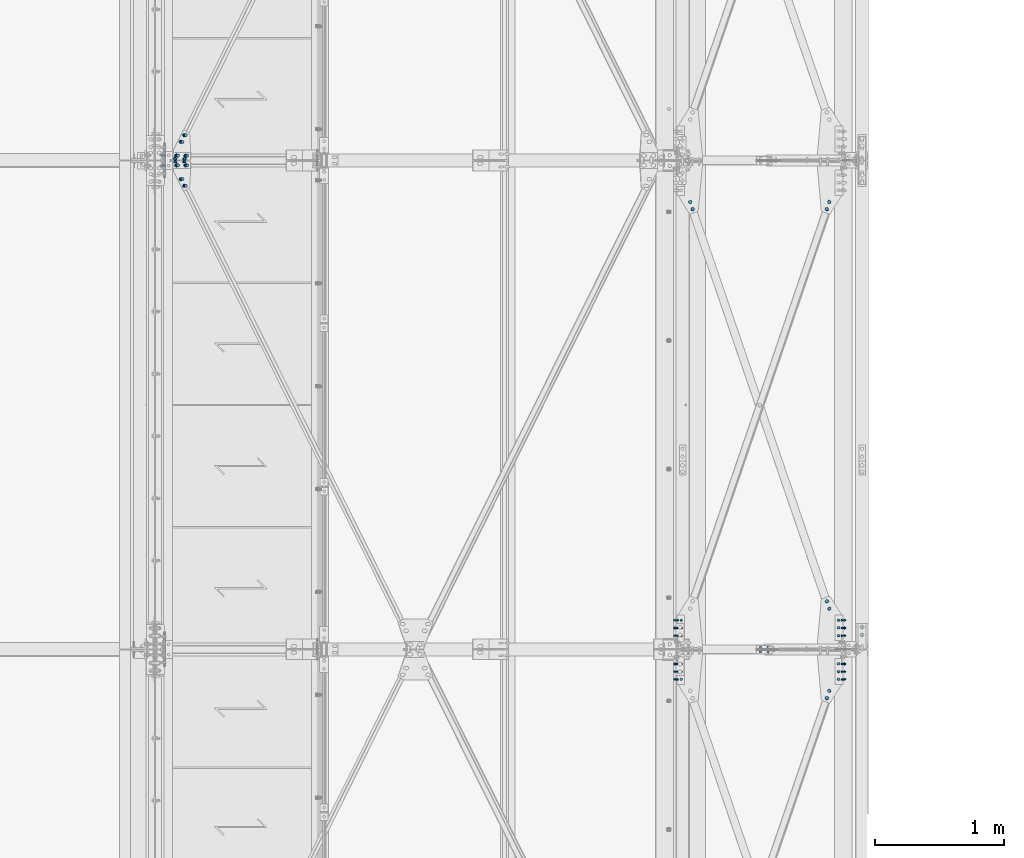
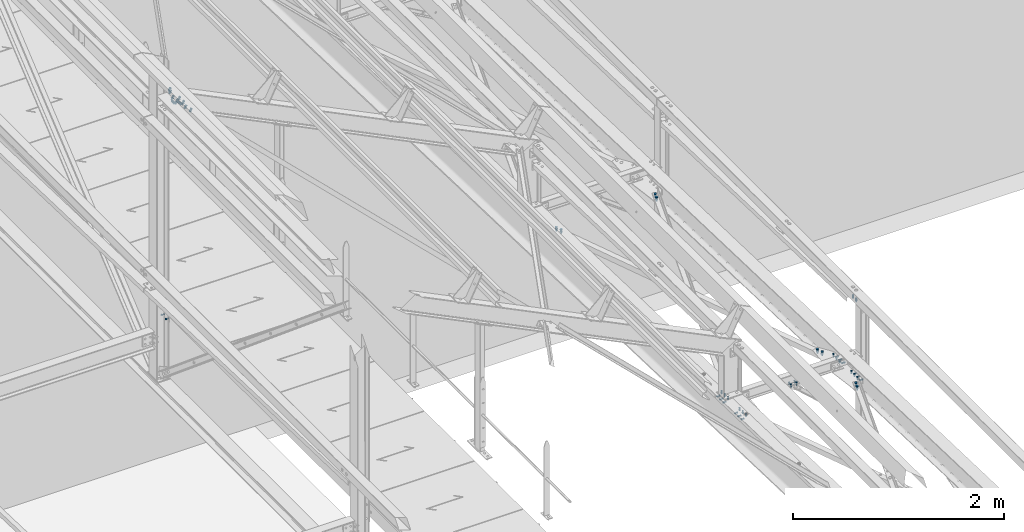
# One storey, part 190 of 362: 20 mechanical fasteners.
"""IFC2X3 building model written with IfcOpenShell, lengths in millimetres."""

from ifc_helpers import new_model, si_unit, frame, frame_2d, origin_with_axes, origin_2d_with_axis, place, context, subcontext, project, spatial, polyline, circle_curve, parameter, trimmed, segment, composite_curve, circle, outline, extrude, source, transform, mapped, material, type_object, element, save


model = new_model("IFC2X3")

# Units and contexts
model_context = context("Model", 3, precision=1e-05, world=origin_with_axes())
body_context = subcontext(model_context, "Body", "Model", "MODEL_VIEW")
ifc_project = project(units=[si_unit("LENGTHUNIT", "METRE", prefix="MILLI"), si_unit("AREAUNIT", "SQUARE_METRE"), si_unit("VOLUMEUNIT", "CUBIC_METRE"), si_unit("MASSUNIT", "GRAM", prefix="KILO"), si_unit("TIMEUNIT", "SECOND"), si_unit("PLANEANGLEUNIT", "RADIAN"), si_unit("SOLIDANGLEUNIT", "STERADIAN"), si_unit("THERMODYNAMICTEMPERATUREUNIT", "DEGREE_CELSIUS"), si_unit("LUMINOUSINTENSITYUNIT", "LUMEN")], contexts=[model_context])

# Site, building, storey
site_placement = place(None, origin_with_axes())
site = spatial("IfcSite", under=ifc_project, at=site_placement, Name="Undefined", CompositionType="ELEMENT")
building_placement = place(site_placement, origin_with_axes())
building = spatial("IfcBuilding", under=site, at=building_placement, Name="Undefined", CompositionType="ELEMENT")
storey_placement = place(building_placement, origin_with_axes())
storey = spatial("IfcBuildingStorey", under=building, at=storey_placement, Name="Undefined", CompositionType="ELEMENT", Elevation=0.0)

# Mechanical fasteners
ifc_material_1 = material(Name="#_SB-8.8-ZINGUE")
mechanical_fastener_type = type_object("IfcMechanicalFastenerType", Name="Bolt assembly")
shared_shape_1 = source(origin_with_axes(), body_context, "Body", "SweptSolid", [
    extrude(circle(Radius=9.0, at=origin_2d_with_axis()), frame((0.0, 0.1, 0.0), z_axis=(0.0, 1.0, 0.0), x_axis=(1.0, 0.0, 0.0)), (0.0, 0.0, 1.0), 6.0),
    extrude(circle(Radius=9.0, at=origin_2d_with_axis()), frame((0.0, 5.90002706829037, 0.0), z_axis=(0.0, 1.0, 0.0), x_axis=(1.0, 0.0, 0.0)), (0.0, 0.0, 1.0), 6.1),
    extrude(outline(polyline([(13.85640646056, 0.0), (6.92820323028, 12.0000000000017), (-6.92820323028, 12.0000000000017), (-13.85640646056, 0.0), (-6.92820323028, -12.0000000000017), (6.92820323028, -12.0000000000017), (13.85640646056, 0.0)])), frame((0.0, -10.5600019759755, 0.0), z_axis=(0.0, 1.0, 0.0), x_axis=(1.0, 0.0, 0.0)), (0.0, 0.0, 1.0), 10.56),
    extrude(circle(Radius=8.0, at=origin_2d_with_axis()), frame((0.0, 0.0, 0.0), z_axis=(0.0, 1.0, 0.0), x_axis=(1.0, 0.0, 0.0)), (0.0, 0.0, 1.0), 40.0),
    extrude(outline(polyline([(15.3344231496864, 0.0), (7.6672115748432, 13.2800000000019), (-7.6672115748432, 13.2800000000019), (-15.3344231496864, 0.0), (-7.6672115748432, -13.2800000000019), (7.6672115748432, -13.2800000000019), (15.3344231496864, 0.0)])), frame((0.0, 12.0000270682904, 0.0), z_axis=(0.0, 1.0, 0.0), x_axis=(1.0, 0.0, 0.0)), (0.0, 0.0, 1.0), 10.56),
])
mechanical_fastener_1_placement = place(storey_placement, frame((34490.8930125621, 7562.0004298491, 10375.2944476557), z_axis=(-0.897398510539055, -1.29999898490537e-08, 0.441220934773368), x_axis=(0.0, 1.0, 0.0)))
element("IfcMechanicalFastener", 1, at=mechanical_fastener_1_placement, inside=storey, type_object=mechanical_fastener_type, material=ifc_material_1, Name="Bolt assembly", NominalDiameter=16.0, NominalLength=40.0, context=body_context, shape_type="MappedRepresentation", body=[
    mapped(shared_shape_1, transform((0.0, 0.0, 40.0))),
    mapped(shared_shape_1, transform((0.0, 0.0, -40.0))),
])
mechanical_fastener_2_placement = place(storey_placement, frame((34490.8930114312, 7638.00022462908, 10375.2944476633), z_axis=(0.897398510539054, 0.0, -0.44122093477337), x_axis=(0.0, -1.0, 0.0)))
element("IfcMechanicalFastener", 2, at=mechanical_fastener_2_placement, inside=storey, type_object=mechanical_fastener_type, material=ifc_material_1, Name="Bolt assembly", NominalDiameter=16.0, NominalLength=40.0, context=body_context, shape_type="MappedRepresentation", body=[
    mapped(shared_shape_1, transform((0.0, 0.0, -40.0))),
    mapped(shared_shape_1, transform((0.0, 0.0, 40.0))),
])
ifc_material_2 = material(Name="8.8-SB-ZINGUE")
shared_shape_2 = source(origin_with_axes(), body_context, "Body", "SweptSolid", [
    extrude(circle(Radius=7.0, at=origin_2d_with_axis()), frame((0.0, -0.100011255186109, 0.0), z_axis=(0.0, 1.0, 0.0), x_axis=(1.0, 0.0, 0.0)), (0.0, 0.0, 1.0), 6.1),
    extrude(circle(Radius=7.0, at=origin_2d_with_axis()), frame((0.0, -5.9000361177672, 0.0), z_axis=(0.0, 1.0, 0.0), x_axis=(1.0, 0.0, 0.0)), (0.0, 0.0, 1.0), 6.0),
    extrude(outline(polyline([(10.39230484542, 0.0), (5.19615242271, 9.00000000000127), (-5.19615242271, 9.00000000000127), (-10.39230484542, 0.0), (-5.19615242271, -9.00000000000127), (5.19615242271, -9.00000000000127), (10.39230484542, 0.0)])), frame((0.0, -13.9200361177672, 0.0), z_axis=(0.0, 1.0, 0.0), x_axis=(1.0, 0.0, 0.0)), (0.0, 0.0, 1.0), 7.92),
    extrude(circle(Radius=6.0, at=origin_2d_with_axis()), frame((0.0, -6.00003611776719, 0.0), z_axis=(0.0, 1.0, 0.0), x_axis=(1.0, 0.0, 0.0)), (0.0, 0.0, 1.0), 30.0),
    extrude(outline(polyline([(11.5008173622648, 0.0), (5.7504086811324, 9.96000000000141), (-5.7504086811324, 9.96000000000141), (-11.5008173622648, 0.0), (-5.7504086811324, -9.96000000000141), (5.7504086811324, -9.96000000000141), (11.5008173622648, 0.0)])), frame((0.0, 6.0, 0.0), z_axis=(0.0, 1.0, 0.0), x_axis=(1.0, 0.0, 0.0)), (0.0, 0.0, 1.0), 7.92),
])
for number, where, z_axis, x_axis, name in (
    (3, (38370.0, 3628.01076316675, 7809.92294628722), (0.0, -0.999506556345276, 0.031410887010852), (-1.0, 0.0, 0.0), "Bolt assembly"),
    (4, (38370.0, 3967.84299484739, 7799.24332495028), (0.0, -0.999506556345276, 0.031410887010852), (-1.0, 0.0, 0.0), "Bolt assembly"),
):
    element("IfcMechanicalFastener", number, at=place(storey_placement, frame(where, z_axis=z_axis, x_axis=x_axis)), inside=storey, type_object=mechanical_fastener_type, material=ifc_material_2, Name=name, NominalDiameter=12.0, NominalLength=30.0, context=body_context, shape_type="MappedRepresentation", body=[
        mapped(shared_shape_2, transform((0.0, 0.0, -60.0))),
        mapped(shared_shape_2, transform((0.0, 0.0, 0.0))),
        mapped(shared_shape_2, transform((0.0, 0.0, 60.0))),
    ])
shared_shape_3 = source(origin_with_axes(), body_context, "Body", "SweptSolid", [
    extrude(circle(Radius=7.0, at=origin_2d_with_axis()), frame((0.0, -0.0999426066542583, 0.0), z_axis=(0.0, 1.0, 0.0), x_axis=(1.0, 0.0, 0.0)), (0.0, 0.0, 1.0), 8.6),
    extrude(circle(Radius=7.0, at=origin_2d_with_axis()), frame((0.0, -6.9, 0.0), z_axis=(0.0, 1.0, 0.0), x_axis=(1.0, 0.0, 0.0)), (0.0, 0.0, 1.0), 7.0),
    extrude(outline(polyline([(10.39230484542, 0.0), (5.19615242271, 9.00000000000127), (-5.19615242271, 9.00000000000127), (-10.39230484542, 0.0), (-5.19615242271, -9.00000000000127), (5.19615242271, -9.00000000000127), (10.39230484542, 0.0)])), frame((0.0, -14.92, 0.0), z_axis=(0.0, 1.0, 0.0), x_axis=(1.0, 0.0, 0.0)), (0.0, 0.0, 1.0), 7.92),
    extrude(circle(Radius=6.0, at=origin_2d_with_axis()), frame((0.0, -7.0, 0.0), z_axis=(0.0, 1.0, 0.0), x_axis=(1.0, 0.0, 0.0)), (0.0, 0.0, 1.0), 30.0),
    extrude(outline(polyline([(11.5008173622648, 0.0), (5.7504086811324, 9.96000000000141), (-5.7504086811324, 9.96000000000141), (-11.5008173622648, 0.0), (-5.7504086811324, -9.96000000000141), (5.7504086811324, -9.96000000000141), (11.5008173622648, 0.0)])), frame((0.0, 8.50005763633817, 0.0), z_axis=(0.0, 1.0, 0.0), x_axis=(1.0, 0.0, 0.0)), (0.0, 0.0, 1.0), 7.92),
])
mechanical_fastener_3_placement = place(storey_placement, frame((34346.5000576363, 7599.99999998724, 7910.00000000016), z_axis=(0.0, -1.0, 0.0), x_axis=(0.0, 0.0, 1.0)))
element("IfcMechanicalFastener", 5, at=mechanical_fastener_3_placement, inside=storey, type_object=mechanical_fastener_type, material=ifc_material_2, Name="Bolt assembly", NominalDiameter=12.0, NominalLength=30.0, context=body_context, shape_type="MappedRepresentation", body=[
    mapped(shared_shape_3, transform((0.0, 0.0, -40.0))),
    mapped(shared_shape_3, transform((0.0, 0.0, 40.0))),
])
shared_shape_4 = source(origin_with_axes(), body_context, "Body", "SweptSolid", [
    extrude(circle(Radius=7.0, at=origin_2d_with_axis()), frame((0.0, -3.89999843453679, 0.0), z_axis=(0.0, 1.0, 0.0), x_axis=(1.0, 0.0, 0.0)), (0.0, 0.0, 1.0), 4.0),
    extrude(outline(composite_curve([segment(polyline([(-7.0, 7.0), (7.0, 7.0)]), True, "CONTINUOUS"), segment(trimmed(circle_curve(frame_2d((7.0, 0.0), x_axis=(0.0, 1.0)), 7.0), [parameter(0.0)], [parameter(3.14159265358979)], False, "PARAMETER"), True, "CONTINUOUS"), segment(polyline([(7.0, -7.0), (-7.0, -7.0)]), True, "CONTINUOUS"), segment(trimmed(circle_curve(frame_2d((-7.0, 0.0), x_axis=(0.0, -1.0)), 7.0), [parameter(0.0)], [parameter(3.14159265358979)], False, "PARAMETER"), True, "DISCONTINUOUS")], self_intersect=False)), frame((0.0, -0.100011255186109, 0.0), z_axis=(0.0, 1.0, 0.0), x_axis=(1.0, 0.0, 0.0)), (0.0, 0.0, 1.0), 10.1),
    extrude(outline(polyline([(10.39230484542, 0.0), (5.19615242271, 9.00000000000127), (-5.19615242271, 9.00000000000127), (-10.39230484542, 0.0), (-5.19615242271, -9.00000000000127), (5.19615242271, -9.00000000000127), (10.39230484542, 0.0)])), frame((0.0, -11.9199984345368, 0.0), z_axis=(0.0, 1.0, 0.0), x_axis=(1.0, 0.0, 0.0)), (0.0, 0.0, 1.0), 7.92),
    extrude(circle(Radius=6.0, at=origin_2d_with_axis()), frame((0.0, -3.99999923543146, 0.0), z_axis=(0.0, 1.0, 0.0), x_axis=(1.0, 0.0, 0.0)), (0.0, 0.0, 1.0), 40.0),
    extrude(circle(Radius=10.8, at=origin_2d_with_axis()), frame((0.0, 10.0000000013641, 0.0), z_axis=(0.0, 1.0, 0.0), x_axis=(1.0, 0.0, 0.0)), (0.0, 0.0, 1.0), 3.96),
    extrude(outline(polyline([(11.5008173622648, 0.0), (5.7504086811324, 9.96000000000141), (-5.7504086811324, 9.96000000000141), (-11.5008173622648, 0.0), (-5.7504086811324, -9.96000000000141), (5.7504086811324, -9.96000000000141), (11.5008173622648, 0.0)])), frame((0.0, 13.96, 0.0), z_axis=(0.0, 1.0, 0.0), x_axis=(1.0, 0.0, 0.0)), (0.0, 0.0, 1.0), 7.92),
])
mechanical_fastener_4_placement = place(storey_placement, frame((39775.0, 3973.5, 8450.0), z_axis=(1.0, 0.0, 0.0), x_axis=(0.0, -1.0, 0.0)))
element("IfcMechanicalFastener", 6, at=mechanical_fastener_4_placement, inside=storey, type_object=mechanical_fastener_type, material=ifc_material_2, Name="Bolt assembly", NominalDiameter=12.0, NominalLength=40.0, context=body_context, shape_type="MappedRepresentation", body=[
    mapped(shared_shape_4, transform((0.0, 0.0, 0.0))),
    mapped(shared_shape_4, transform((60.0, 0.0, 0.0))),
])
shared_shape_5 = source(origin_with_axes(), body_context, "Body", "SweptSolid", [
    extrude(circle(Radius=9.0, at=origin_2d_with_axis()), frame((0.0, -2.80035671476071, 0.0), z_axis=(0.0, 1.0, 0.0), x_axis=(1.0, 0.0, 0.0)), (0.0, 0.0, 1.0), 5.6),
    extrude(circle(Radius=9.0, at=origin_2d_with_axis()), frame((0.0, 2.89989517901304, 0.0), z_axis=(0.0, 1.0, 0.0), x_axis=(1.0, 0.0, 0.0)), (0.0, 0.0, 1.0), 6.1),
    extrude(circle(Radius=9.0, at=origin_2d_with_axis()), frame((0.0, -8.89990143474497, 0.0), z_axis=(0.0, 1.0, 0.0), x_axis=(1.0, 0.0, 0.0)), (0.0, 0.0, 1.0), 6.0),
    extrude(outline(polyline([(13.85640646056, 0.0), (6.92820323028, 12.0000000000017), (-6.92820323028, 12.0000000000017), (-13.85640646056, 0.0), (-6.92820323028, -12.0000000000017), (6.92820323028, -12.0000000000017), (13.85640646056, 0.0)])), frame((0.0, -19.559901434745, 0.0), z_axis=(0.0, 1.0, 0.0), x_axis=(1.0, 0.0, 0.0)), (0.0, 0.0, 1.0), 10.56),
    extrude(circle(Radius=8.0, at=origin_2d_with_axis()), frame((0.0, -8.99990143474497, 0.0), z_axis=(0.0, 1.0, 0.0), x_axis=(1.0, 0.0, 0.0)), (0.0, 0.0, 1.0), 40.0),
    extrude(outline(polyline([(15.3344231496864, 0.0), (7.6672115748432, 13.2800000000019), (-7.6672115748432, 13.2800000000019), (-15.3344231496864, 0.0), (-7.6672115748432, -13.2800000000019), (7.6672115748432, -13.2800000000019), (15.3344231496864, 0.0)])), frame((0.0, 8.9999337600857, 0.0), z_axis=(0.0, 1.0, 0.0), x_axis=(1.0, 0.0, 0.0)), (0.0, 0.0, 1.0), 10.56),
])
mechanical_fastener_5_placement = place(storey_placement, frame((34472.8028723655, 7600.00033007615, 10338.5011114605), z_axis=(-0.897398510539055, -1.29999898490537e-08, 0.441220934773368), x_axis=(0.44122107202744, 0.0, 0.89739844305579)))
element("IfcMechanicalFastener", 7, at=mechanical_fastener_5_placement, inside=storey, type_object=mechanical_fastener_type, material=ifc_material_1, Name="Bolt assembly", NominalDiameter=16.0, NominalLength=40.0, context=body_context, shape_type="MappedRepresentation", body=[
    mapped(shared_shape_5, transform((0.0, 0.0, 40.0))),
    mapped(shared_shape_5, transform((0.0, 0.0, -40.0))),
])
shared_shape_6 = source(origin_with_axes(), body_context, "Body", "SweptSolid", [
    extrude(circle(Radius=9.0, at=origin_2d_with_axis()), frame((0.0, -4.90000000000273, 0.0), z_axis=(0.0, 1.0, 0.0), x_axis=(1.0, 0.0, 0.0)), (0.0, 0.0, 1.0), 5.0),
    extrude(circle(Radius=9.0, at=origin_2d_with_axis()), frame((0.0, -0.100011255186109, 0.0), z_axis=(0.0, 1.0, 0.0), x_axis=(1.0, 0.0, 0.0)), (0.0, 0.0, 1.0), 6.1),
    extrude(outline(polyline([(13.85640646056, 0.0), (6.92820323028, 12.0000000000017), (-6.92820323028, 12.0000000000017), (-13.85640646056, 0.0), (-6.92820323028, -12.0000000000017), (6.92820323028, -12.0000000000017), (13.85640646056, 0.0)])), frame((0.0, -15.5600404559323, 0.0), z_axis=(0.0, 1.0, 0.0), x_axis=(1.0, 0.0, 0.0)), (0.0, 0.0, 1.0), 10.56),
    extrude(circle(Radius=8.0, at=origin_2d_with_axis()), frame((0.0, -5.00000000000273, 0.0), z_axis=(0.0, 1.0, 0.0), x_axis=(1.0, 0.0, 0.0)), (0.0, 0.0, 1.0), 30.0),
    extrude(outline(polyline([(15.3344231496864, 0.0), (7.6672115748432, 13.2800000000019), (-7.6672115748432, 13.2800000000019), (-15.3344231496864, 0.0), (-7.6672115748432, -13.2800000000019), (7.6672115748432, -13.2800000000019), (15.3344231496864, 0.0)])), frame((0.0, 6.0, 0.0), z_axis=(0.0, 1.0, 0.0), x_axis=(1.0, 0.0, 0.0)), (0.0, 0.0, 1.0), 10.56),
])
for number, where, z_axis, x_axis, name in (
    (8, (34486.787716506, 7454.91111767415, 10377.3128834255), (0.784869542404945, 0.484835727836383, -0.385893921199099), (0.435090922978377, -0.874605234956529, -0.213919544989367), "Bolt assembly"),
    (9, (34486.7877121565, 7745.08953668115, 10377.3128834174), (-0.78486955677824, 0.484835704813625, 0.385893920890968), (0.435090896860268, 0.874605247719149, -0.213919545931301), "Bolt assembly"),
):
    element("IfcMechanicalFastener", number, at=place(storey_placement, frame(where, z_axis=z_axis, x_axis=x_axis)), inside=storey, type_object=mechanical_fastener_type, material=ifc_material_1, Name=name, NominalDiameter=16.0, NominalLength=30.0, context=body_context, shape_type="MappedRepresentation", body=[
        mapped(shared_shape_6, transform((0.0, 0.0, 0.0))),
        mapped(shared_shape_6, transform((60.0, 0.0, 0.0))),
    ])
ifc_material_3 = material(Name="6.8")
shared_shape_7 = source(origin_with_axes(), body_context, "Body", "SweptSolid", [
    extrude(circle(Radius=6.0, at=origin_2d_with_axis()), frame((0.0, -6.20005331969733, 0.0), z_axis=(0.0, 1.0, 0.0), x_axis=(1.0, 0.0, 0.0)), (0.0, 0.0, 1.0), 6.3),
    extrude(circle(Radius=6.0, at=origin_2d_with_axis()), frame((0.0, -0.10007666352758, 0.0), z_axis=(0.0, 1.0, 0.0), x_axis=(1.0, 0.0, 0.0)), (0.0, 0.0, 1.0), 6.1),
    extrude(outline(polyline([(9.81495457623, 0.0), (4.907477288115, 8.5000000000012), (-4.907477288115, 8.5000000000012), (-9.81495457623, 0.0), (-4.907477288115, -8.5000000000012), (4.907477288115, -8.5000000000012), (9.81495457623, 0.0)])), frame((0.0, -13.8000533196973, 0.0), z_axis=(0.0, 1.0, 0.0), x_axis=(1.0, 0.0, 0.0)), (0.0, 0.0, 1.0), 7.5),
    extrude(circle(Radius=5.0, at=origin_2d_with_axis()), frame((0.0, -6.30005331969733, 0.0), z_axis=(0.0, 1.0, 0.0), x_axis=(1.0, 0.0, 0.0)), (0.0, 0.0, 1.0), 30.0),
    extrude(outline(polyline([(9.23760430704, 0.0), (4.61880215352, 8.00000000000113), (-4.61880215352, 8.00000000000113), (-9.23760430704, 0.0), (-4.61880215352, -8.00000000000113), (4.61880215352, -8.00000000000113), (9.23760430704, 0.0)])), frame((0.0, 5.99989660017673, 0.0), z_axis=(0.0, 1.0, 0.0), x_axis=(1.0, 0.0, 0.0)), (0.0, 0.0, 1.0), 8.4),
])
mechanical_fastener_6_placement = place(storey_placement, frame((39015.0, 3781.12374052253, 7811.11407652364), z_axis=(-1.0, 0.0, 0.0), x_axis=(3.14103090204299e-11, 0.999506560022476, -0.0314107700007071)))
element("IfcMechanicalFastener", 10, at=mechanical_fastener_6_placement, inside=storey, type_object=mechanical_fastener_type, material=ifc_material_3, Name="Bolt assembly", NominalDiameter=10.0, NominalLength=30.0, context=body_context, shape_type="MappedRepresentation", body=[
    mapped(shared_shape_7, transform((0.0, 0.0, -30.0))),
    mapped(shared_shape_7, transform((33.9999999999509, -3.27418092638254e-11, -30.0))),
    mapped(shared_shape_7, transform((0.0, 0.0, 30.0))),
    mapped(shared_shape_7, transform((33.9999999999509, -3.27418092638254e-11, 30.0))),
])
shared_shape_8 = source(origin_with_axes(), body_context, "Body", "SweptSolid", [
    extrude(circle(Radius=9.0, at=origin_2d_with_axis()), frame((0.0, 2.90011561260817, 0.0), z_axis=(0.0, 1.0, 0.0), x_axis=(1.0, 0.0, 0.0)), (0.0, 0.0, 1.0), 6.1),
    extrude(circle(Radius=9.0, at=origin_2d_with_axis()), frame((0.0, -2.9, 0.0), z_axis=(0.0, 1.0, 0.0), x_axis=(1.0, 0.0, 0.0)), (0.0, 0.0, 1.0), 6.0),
    extrude(outline(polyline([(13.85640646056, 0.0), (6.92820323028, 12.0000000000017), (-6.92820323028, 12.0000000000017), (-13.85640646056, 0.0), (-6.92820323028, -12.0000000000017), (6.92820323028, -12.0000000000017), (13.85640646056, 0.0)])), frame((0.0, -13.56, 0.0), z_axis=(0.0, 1.0, 0.0), x_axis=(1.0, 0.0, 0.0)), (0.0, 0.0, 1.0), 10.56),
    extrude(circle(Radius=8.0, at=origin_2d_with_axis()), frame((0.0, -2.99999932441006, 0.0), z_axis=(0.0, 1.0, 0.0), x_axis=(1.0, 0.0, 0.0)), (0.0, 0.0, 1.0), 40.0),
    extrude(outline(polyline([(15.3344231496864, 0.0), (7.6672115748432, 13.2800000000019), (-7.6672115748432, 13.2800000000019), (-15.3344231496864, 0.0), (-7.6672115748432, -13.2800000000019), (7.6672115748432, -13.2800000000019), (15.3344231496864, 0.0)])), frame((0.0, 9.00011561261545, 0.0), z_axis=(0.0, 1.0, 0.0), x_axis=(1.0, 0.0, 0.0)), (0.0, 0.0, 1.0), 10.56),
])
mechanical_fastener_7_placement = place(storey_placement, frame((38439.2699558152, 7278.61566408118, 7698.1995638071), z_axis=(0.946212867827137, 0.323385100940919, -0.0101629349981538), x_axis=(0.323544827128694, -0.94574594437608, 0.0297212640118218)))
element("IfcMechanicalFastener", 11, at=mechanical_fastener_7_placement, inside=storey, type_object=mechanical_fastener_type, material=ifc_material_2, Name="Bolt assembly", NominalDiameter=16.0, NominalLength=40.0, context=body_context, shape_type="MappedRepresentation", body=[
    mapped(shared_shape_8, transform((0.0, 0.0, 0.0))),
    mapped(shared_shape_8, transform((60.0, 0.0, 0.0))),
])
shared_shape_9 = source(origin_with_axes(), body_context, "Body", "SweptSolid", [
    extrude(circle(Radius=9.0, at=origin_2d_with_axis()), frame((0.0, -8.89467031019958, 0.0), z_axis=(0.0, 1.0, 0.0), x_axis=(1.0, 0.0, 0.0)), (0.0, 0.0, 1.0), 6.0),
    extrude(circle(Radius=9.0, at=origin_2d_with_axis()), frame((0.0, -3.09999932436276, 0.0), z_axis=(0.0, 1.0, 0.0), x_axis=(1.0, 0.0, 0.0)), (0.0, 0.0, 1.0), 6.1),
    extrude(outline(polyline([(13.85640646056, 0.0), (6.92820323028, 12.0000000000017), (-6.92820323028, 12.0000000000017), (-13.85640646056, 0.0), (-6.92820323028, -12.0000000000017), (6.92820323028, -12.0000000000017), (13.85640646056, 0.0)])), frame((0.0, -19.5546703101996, 0.0), z_axis=(0.0, 1.0, 0.0), x_axis=(1.0, 0.0, 0.0)), (0.0, 0.0, 1.0), 10.56),
    extrude(circle(Radius=8.0, at=origin_2d_with_axis()), frame((0.0, -8.99467031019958, 0.0), z_axis=(0.0, 1.0, 0.0), x_axis=(1.0, 0.0, 0.0)), (0.0, 0.0, 1.0), 40.0),
    extrude(outline(polyline([(15.3344231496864, 0.0), (7.6672115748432, 13.2800000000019), (-7.6672115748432, 13.2800000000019), (-15.3344231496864, 0.0), (-7.6672115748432, -13.2800000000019), (7.6672115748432, -13.2800000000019), (15.3344231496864, 0.0)])), frame((0.0, 3.00000067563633, 0.0), z_axis=(0.0, 1.0, 0.0), x_axis=(1.0, 0.0, 0.0)), (0.0, 0.0, 1.0), 10.56),
])
mechanical_fastener_8_placement = place(storey_placement, frame((39520.730032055, 3478.61578552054, 7817.61937069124), z_axis=(0.946212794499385, -0.323385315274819, 0.0101629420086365), x_axis=(-0.323544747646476, -0.945745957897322, 0.0297216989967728)))
element("IfcMechanicalFastener", 12, at=mechanical_fastener_8_placement, inside=storey, type_object=mechanical_fastener_type, material=ifc_material_2, Name="Bolt assembly", NominalDiameter=16.0, NominalLength=40.0, context=body_context, shape_type="MappedRepresentation", body=[
    mapped(shared_shape_9, transform((0.0, 0.0, 0.0))),
    mapped(shared_shape_9, transform((60.0, 0.0, 0.0))),
])
shared_shape_10 = source(origin_with_axes(), body_context, "Body", "SweptSolid", [
    extrude(circle(Radius=9.0, at=origin_2d_with_axis()), frame((0.0, 2.90517863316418, 0.0), z_axis=(0.0, 1.0, 0.0), x_axis=(1.0, 0.0, 0.0)), (0.0, 0.0, 1.0), 6.1),
    extrude(circle(Radius=9.0, at=origin_2d_with_axis()), frame((0.0, -2.9, 0.0), z_axis=(0.0, 1.0, 0.0), x_axis=(1.0, 0.0, 0.0)), (0.0, 0.0, 1.0), 6.0),
    extrude(outline(polyline([(13.85640646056, 0.0), (6.92820323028, 12.0000000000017), (-6.92820323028, 12.0000000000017), (-13.85640646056, 0.0), (-6.92820323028, -12.0000000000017), (6.92820323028, -12.0000000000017), (13.85640646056, 0.0)])), frame((0.0, -13.56, 0.0), z_axis=(0.0, 1.0, 0.0), x_axis=(1.0, 0.0, 0.0)), (0.0, 0.0, 1.0), 10.56),
    extrude(circle(Radius=8.0, at=origin_2d_with_axis()), frame((0.0, -2.99999932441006, 0.0), z_axis=(0.0, 1.0, 0.0), x_axis=(1.0, 0.0, 0.0)), (0.0, 0.0, 1.0), 40.0),
    extrude(outline(polyline([(15.3344231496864, 0.0), (7.6672115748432, 13.2800000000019), (-7.6672115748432, 13.2800000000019), (-15.3344231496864, 0.0), (-7.6672115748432, -13.2800000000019), (7.6672115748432, -13.2800000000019), (15.3344231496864, 0.0)])), frame((0.0, 9.00517863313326, 0.0), z_axis=(0.0, 1.0, 0.0), x_axis=(1.0, 0.0, 0.0)), (0.0, 0.0, 1.0), 10.56),
])
mechanical_fastener_9_placement = place(storey_placement, frame((39520.7300466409, 4117.42478711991, 7797.54398910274), z_axis=(-0.94621275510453, -0.323385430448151, 0.0101629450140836), x_axis=(-0.323544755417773, 0.945745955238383, -0.0297216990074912)))
element("IfcMechanicalFastener", 13, at=mechanical_fastener_9_placement, inside=storey, type_object=mechanical_fastener_type, material=ifc_material_2, Name="Bolt assembly", NominalDiameter=16.0, NominalLength=40.0, context=body_context, shape_type="MappedRepresentation", body=[
    mapped(shared_shape_10, transform((0.0, 0.0, 0.0))),
    mapped(shared_shape_10, transform((60.0, 0.0, 0.0))),
])
shared_shape_11 = source(origin_with_axes(), body_context, "Body", "SweptSolid", [
    extrude(circle(Radius=9.0, at=origin_2d_with_axis()), frame((0.0, -8.899829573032, 0.0), z_axis=(0.0, 1.0, 0.0), x_axis=(1.0, 0.0, 0.0)), (0.0, 0.0, 1.0), 6.0),
    extrude(circle(Radius=9.0, at=origin_2d_with_axis()), frame((0.0, -3.09999932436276, 0.0), z_axis=(0.0, 1.0, 0.0), x_axis=(1.0, 0.0, 0.0)), (0.0, 0.0, 1.0), 6.1),
    extrude(outline(polyline([(13.85640646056, 0.0), (6.92820323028, 12.0000000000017), (-6.92820323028, 12.0000000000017), (-13.85640646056, 0.0), (-6.92820323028, -12.0000000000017), (6.92820323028, -12.0000000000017), (13.85640646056, 0.0)])), frame((0.0, -19.559829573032, 0.0), z_axis=(0.0, 1.0, 0.0), x_axis=(1.0, 0.0, 0.0)), (0.0, 0.0, 1.0), 10.56),
    extrude(circle(Radius=8.0, at=origin_2d_with_axis()), frame((0.0, -8.999829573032, 0.0), z_axis=(0.0, 1.0, 0.0), x_axis=(1.0, 0.0, 0.0)), (0.0, 0.0, 1.0), 40.0),
    extrude(outline(polyline([(15.3344231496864, 0.0), (7.6672115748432, 13.2800000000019), (-7.6672115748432, 13.2800000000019), (-15.3344231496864, 0.0), (-7.6672115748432, -13.2800000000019), (7.6672115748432, -13.2800000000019), (15.3344231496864, 0.0)])), frame((0.0, 3.00000067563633, 0.0), z_axis=(0.0, 1.0, 0.0), x_axis=(1.0, 0.0, 0.0)), (0.0, 0.0, 1.0), 10.56),
])
mechanical_fastener_10_placement = place(storey_placement, frame((39520.7300347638, 7278.61566710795, 7698.19956371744), z_axis=(0.946212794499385, -0.323385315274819, 0.0101629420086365), x_axis=(-0.323544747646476, -0.945745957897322, 0.0297216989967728)))
element("IfcMechanicalFastener", 14, at=mechanical_fastener_10_placement, inside=storey, type_object=mechanical_fastener_type, material=ifc_material_2, Name="Bolt assembly", NominalDiameter=16.0, NominalLength=40.0, context=body_context, shape_type="MappedRepresentation", body=[
    mapped(shared_shape_11, transform((0.0, 0.0, 0.0))),
    mapped(shared_shape_11, transform((60.0, 0.0, 0.0))),
])
shared_shape_12 = source(origin_with_axes(), body_context, "Body", "SweptSolid", [
    extrude(circle(Radius=7.0, at=origin_2d_with_axis()), frame((0.0, -0.100011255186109, 0.0), z_axis=(0.0, 1.0, 0.0), x_axis=(1.0, 0.0, 0.0)), (0.0, 0.0, 1.0), 6.1),
    extrude(circle(Radius=7.0, at=origin_2d_with_axis()), frame((0.0, -5.8999542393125, 0.0), z_axis=(0.0, 1.0, 0.0), x_axis=(1.0, 0.0, 0.0)), (0.0, 0.0, 1.0), 6.0),
    extrude(outline(polyline([(10.39230484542, 0.0), (5.19615242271, 9.00000000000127), (-5.19615242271, 9.00000000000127), (-10.39230484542, 0.0), (-5.19615242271, -9.00000000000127), (5.19615242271, -9.00000000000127), (10.39230484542, 0.0)])), frame((0.0, -13.9199542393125, 0.0), z_axis=(0.0, 1.0, 0.0), x_axis=(1.0, 0.0, 0.0)), (0.0, 0.0, 1.0), 7.92),
    extrude(circle(Radius=6.0, at=origin_2d_with_axis()), frame((0.0, -5.9999542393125, 0.0), z_axis=(0.0, 1.0, 0.0), x_axis=(1.0, 0.0, 0.0)), (0.0, 0.0, 1.0), 30.0),
    extrude(outline(polyline([(11.5008173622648, 0.0), (5.7504086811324, 9.96000000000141), (-5.7504086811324, 9.96000000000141), (-11.5008173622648, 0.0), (-5.7504086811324, -9.96000000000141), (5.7504086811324, -9.96000000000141), (11.5008173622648, 0.0)])), frame((0.0, 6.0, 0.0), z_axis=(0.0, 1.0, 0.0), x_axis=(1.0, 0.0, 0.0)), (0.0, 0.0, 1.0), 7.92),
])
for number, where, z_axis, x_axis, name in (
    (15, (39591.4999999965, 3967.84299489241, 7799.24332494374), (3.14103090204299e-11, 0.999506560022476, -0.0314107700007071), (1.0, 0.0, 0.0), "Bolt assembly"),
    (16, (39591.4999999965, 3628.01076324, 7809.92294628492), (3.14103090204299e-11, 0.999506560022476, -0.0314107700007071), (1.0, 0.0, 0.0), "Bolt assembly"),
):
    element("IfcMechanicalFastener", number, at=place(storey_placement, frame(where, z_axis=z_axis, x_axis=x_axis)), inside=storey, type_object=mechanical_fastener_type, material=ifc_material_2, Name=name, NominalDiameter=12.0, NominalLength=30.0, context=body_context, shape_type="MappedRepresentation", body=[
        mapped(shared_shape_12, transform((0.0, 0.0, -60.0))),
        mapped(shared_shape_12, transform((0.0, 0.0, 0.0))),
        mapped(shared_shape_12, transform((0.0, 0.0, 60.0))),
    ])
shared_shape_13 = source(origin_with_axes(), body_context, "Body", "SweptSolid", [
    extrude(circle(Radius=7.0, at=origin_2d_with_axis()), frame((0.0, -3.40000002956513, 0.0), z_axis=(0.0, 1.0, 0.0), x_axis=(1.0, 0.0, 0.0)), (0.0, 0.0, 1.0), 6.7),
    extrude(circle(Radius=7.0, at=origin_2d_with_axis()), frame((0.0, -9.40000000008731, 0.0), z_axis=(0.0, 1.0, 0.0), x_axis=(1.0, 0.0, 0.0)), (0.0, 0.0, 1.0), 6.0),
    extrude(outline(polyline([(10.39230484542, 0.0), (5.19615242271, 9.00000000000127), (-5.19615242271, 9.00000000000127), (-10.39230484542, 0.0), (-5.19615242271, -9.00000000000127), (5.19615242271, -9.00000000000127), (10.39230484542, 0.0)])), frame((0.0, -17.4200000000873, 0.0), z_axis=(0.0, 1.0, 0.0), x_axis=(1.0, 0.0, 0.0)), (0.0, 0.0, 1.0), 7.92),
    extrude(circle(Radius=6.0, at=origin_2d_with_axis()), frame((0.0, -9.50000000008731, 0.0), z_axis=(0.0, 1.0, 0.0), x_axis=(1.0, 0.0, 0.0)), (0.0, 0.0, 1.0), 30.0),
    extrude(outline(polyline([(11.5008173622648, 0.0), (5.7504086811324, 9.96000000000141), (-5.7504086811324, 9.96000000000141), (-11.5008173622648, 0.0), (-5.7504086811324, -9.96000000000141), (5.7504086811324, -9.96000000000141), (11.5008173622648, 0.0)])), frame((0.0, 3.29999995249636, 0.0), z_axis=(0.0, 1.0, 0.0), x_axis=(1.0, 0.0, 0.0)), (0.0, 0.0, 1.0), 7.92),
])
for number, where, z_axis, x_axis, name in (
    (17, (39630.0000000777, 3626.91138662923, 7774.94021668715), (3.14103090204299e-11, 0.999506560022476, -0.0314107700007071), (7.58071938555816e-11, 0.0314107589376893, 0.999506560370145), "Bolt assembly"),
    (18, (39630.0000000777, 3966.74361828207, 7764.26059534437), (3.14103090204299e-11, 0.999506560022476, -0.0314107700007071), (7.58071938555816e-11, 0.0314107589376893, 0.999506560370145), "Bolt assembly"),
):
    element("IfcMechanicalFastener", number, at=place(storey_placement, frame(where, z_axis=z_axis, x_axis=x_axis)), inside=storey, type_object=mechanical_fastener_type, material=ifc_material_2, Name=name, NominalDiameter=12.0, NominalLength=30.0, context=body_context, shape_type="MappedRepresentation", body=[
        mapped(shared_shape_13, transform((0.0, 0.0, -60.0))),
        mapped(shared_shape_13, transform((0.0, 0.0, 0.0))),
        mapped(shared_shape_13, transform((0.0, 0.0, 60.0))),
    ])
shared_shape_14 = source(origin_with_axes(), body_context, "Body", "SweptSolid", [
    extrude(circle(Radius=7.0, at=origin_2d_with_axis()), frame((0.0, -4.79999988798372, 0.0), z_axis=(0.0, 1.0, 0.0), x_axis=(1.0, 0.0, 0.0)), (0.0, 0.0, 1.0), 9.5),
    extrude(circle(Radius=7.0, at=origin_2d_with_axis()), frame((0.0, -10.9000000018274, 0.0), z_axis=(0.0, 1.0, 0.0), x_axis=(1.0, 0.0, 0.0)), (0.0, 0.0, 1.0), 6.0),
    extrude(outline(polyline([(10.39230484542, 0.0), (5.19615242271, 9.00000000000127), (-5.19615242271, 9.00000000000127), (-10.39230484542, 0.0), (-5.19615242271, -9.00000000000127), (5.19615242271, -9.00000000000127), (10.39230484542, 0.0)])), frame((0.0, -18.9200000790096, 0.0), z_axis=(0.0, 1.0, 0.0), x_axis=(1.0, 0.0, 0.0)), (0.0, 0.0, 1.0), 7.92),
    extrude(circle(Radius=6.0, at=origin_2d_with_axis()), frame((0.0, -11.0000000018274, 0.0), z_axis=(0.0, 1.0, 0.0), x_axis=(1.0, 0.0, 0.0)), (0.0, 0.0, 1.0), 30.0),
    extrude(outline(polyline([(11.5008173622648, 0.0), (5.7504086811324, 9.96000000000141), (-5.7504086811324, 9.96000000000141), (-11.5008173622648, 0.0), (-5.7504086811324, -9.96000000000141), (5.7504086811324, -9.96000000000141), (11.5008173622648, 0.0)])), frame((0.0, 4.69999973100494, 0.0), z_axis=(0.0, 1.0, 0.0), x_axis=(1.0, 0.0, 0.0)), (0.0, 0.0, 1.0), 7.92),
])
for number, where, z_axis, x_axis, name in (
    (19, (38329.9999999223, 3626.91138658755, 7774.94021668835), (0.0, -0.999506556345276, 0.031410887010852), (7.58071938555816e-11, 0.0314107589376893, 0.999506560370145), "Bolt assembly"),
    (20, (38329.9999999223, 3966.74361826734, 7764.26059534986), (0.0, -0.999506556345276, 0.031410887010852), (7.58071938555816e-11, 0.0314107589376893, 0.999506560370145), "Bolt assembly"),
):
    element("IfcMechanicalFastener", number, at=place(storey_placement, frame(where, z_axis=z_axis, x_axis=x_axis)), inside=storey, type_object=mechanical_fastener_type, material=ifc_material_2, Name=name, NominalDiameter=12.0, NominalLength=30.0, context=body_context, shape_type="MappedRepresentation", body=[
        mapped(shared_shape_14, transform((0.0, 0.0, -60.0))),
        mapped(shared_shape_14, transform((0.0, 0.0, 0.0))),
        mapped(shared_shape_14, transform((0.0, 0.0, 60.0))),
    ])

save(model, "model.ifc")
